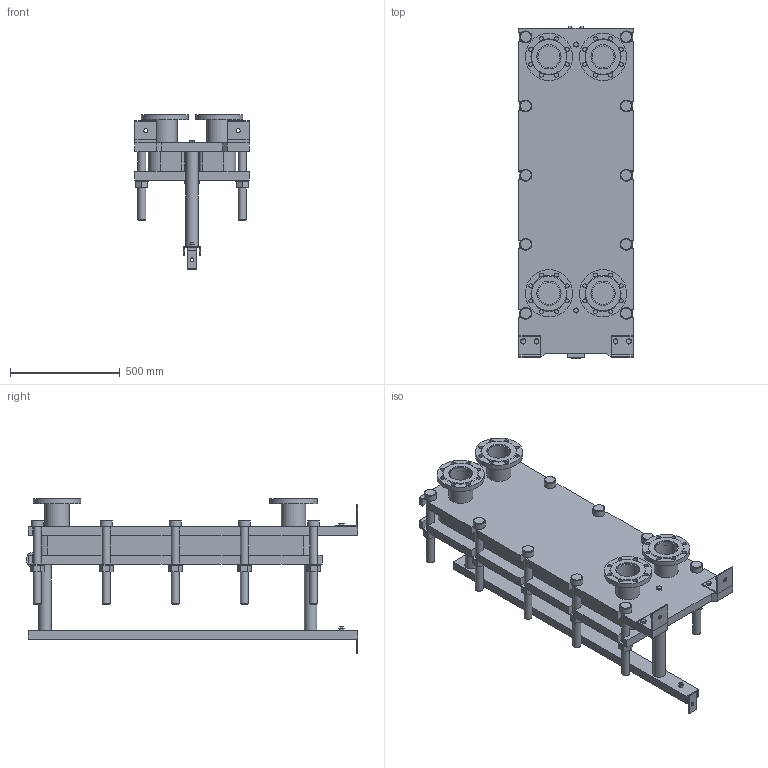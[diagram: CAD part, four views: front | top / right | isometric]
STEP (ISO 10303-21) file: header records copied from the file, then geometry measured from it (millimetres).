
FILE_DESCRIPTION(/* description */ (''),/* implementation_level */ '2;1');
FILE_NAME(/* name */ 'C:\Users\zhuro\Desktop\ENCO\TO\ЭН-04\ЭН-0,5-04-26-1.stp',/* time_stamp */ '2022-06-06T10:46:16+03:00',/* author */ ('zhuro'),/* organization */ (''),/* preprocessor_version */ 'ST-DEVELOPER v18.1',/* originating_system */ 'Autodesk Inventor 2022',/* authorisation */ '');
FILE_SCHEMA (('AUTOMOTIVE_DESIGN { 1 0 10303 214 3 1 1 }'));
Length unit declared in the file: millimetre
Products named in the file (1): ЭН-0,5-04-26-1
Bounding box: 520 x 1510 x 708 mm (x, y, z)
Volume: 112050430.2 mm3; surface area: 6727994.9 mm2
Topology: 45 solids, 45 shells, 668 faces, 1611 edges, 1048 vertices
Faces by surface type: plane 457, cylinder 166, cone 39, torus 6
Full cylindrical faces by diameter (mm): 8 x4, 10 x2, 16 x8, 18 x35, 36 x25, 40 x2, 42 x1, 45 x4, 54 x10, 57 x2, 60 x10, 68 x2, 100 x4, 110 x8, 215 x4
Entity records: 23607 total; most frequent: CARTESIAN_POINT 7348, DIRECTION 3371, ORIENTED_EDGE 3142, EDGE_CURVE 1571, AXIS2_PLACEMENT_3D 1199, VERTEX_POINT 1044, LINE 973, VECTOR 973
